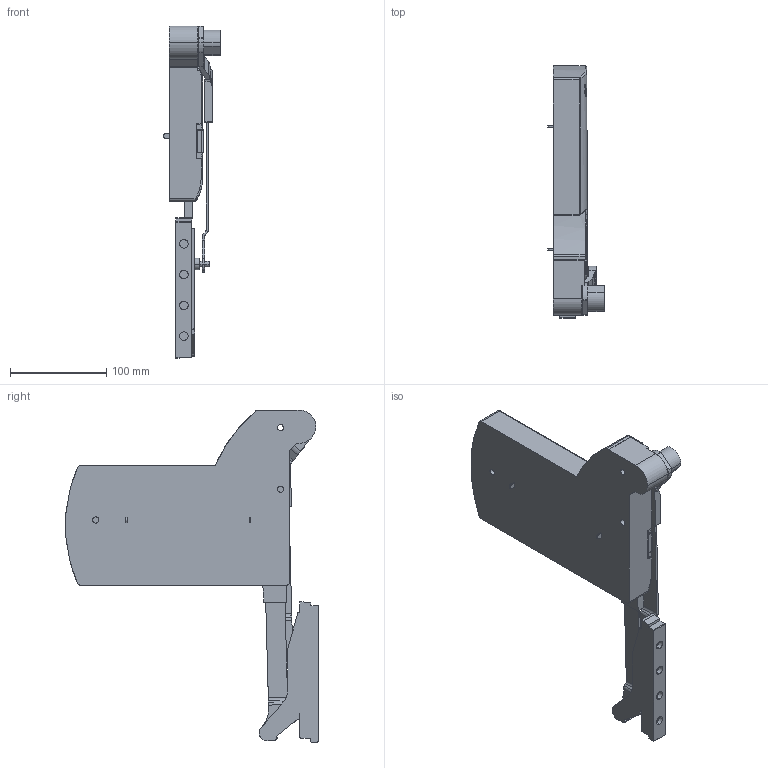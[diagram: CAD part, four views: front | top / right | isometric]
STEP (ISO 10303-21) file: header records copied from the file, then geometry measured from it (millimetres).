
FILE_DESCRIPTION (( 'STEP AP203' ), '1' );
FILE_NAME ('Kinvaro_L-80_Typ3_links_D2806013125~b.step', '2012-05-04T06:34:51', ( 'admin' ), ( 'Hewlett-Packard Company' ), 'SwSTEP 2.0', 'SolidWorks 2011', '' );
FILE_SCHEMA (( 'CONFIG_CONTROL_DESIGN' ));
Length unit declared in the file: millimetre
Products named in the file (1): Kinvaro_L-80_Typ3_links_D2806013125~b
Bounding box: 59 x 262.07 x 344.96 mm (x, y, z)
Volume: 1201457.2 mm3; surface area: 136577.2 mm2
Topology: 1 solids, 1 shells, 611 faces, 1691 edges, 1103 vertices
Faces by surface type: cylinder 327, plane 242, bspline 22, torus 18, sphere 2
Entity records: 20504 total; most frequent: CARTESIAN_POINT 4885, ORIENTED_EDGE 3376, DIRECTION 3206, EDGE_CURVE 1688, AXIS2_PLACEMENT_3D 1152, VERTEX_POINT 1103, LINE 902, VECTOR 902
